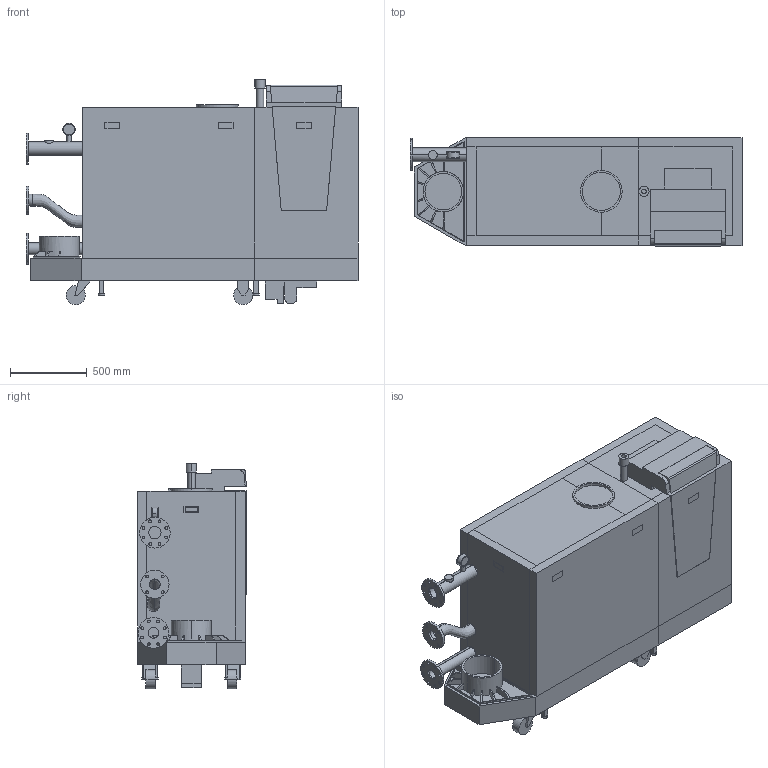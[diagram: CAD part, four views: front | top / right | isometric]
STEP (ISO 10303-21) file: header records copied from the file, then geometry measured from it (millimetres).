
FILE_DESCRIPTION (( 'STEP AP203' ), '1' );
FILE_NAME ('gas 310 ECO pro 8-10 leden.STEP', '2012-02-06T09:59:44', ( 'PICCA04' ), ( 'Microsoft' ), 'SwSTEP 2.0', 'SolidWorks 2011', '' );
FILE_SCHEMA (( 'CONFIG_CONTROL_DESIGN' ));
Length unit declared in the file: millimetre
Products named in the file (1): gas 310 ECO pro 8-10 leden
Bounding box: 2164 x 710 x 1469.5 mm (x, y, z)
Volume: 1488336312.3 mm3; surface area: 10526818 mm2
Topology: 1 solids, 1 shells, 386 faces, 977 edges, 630 vertices
Faces by surface type: plane 262, cylinder 120, bspline 4
Entity records: 18781 total; most frequent: CARTESIAN_POINT 9146, DIRECTION 1988, ORIENTED_EDGE 1954, EDGE_CURVE 977, VECTOR 664, LINE 664, AXIS2_PLACEMENT_3D 662, VERTEX_POINT 630
